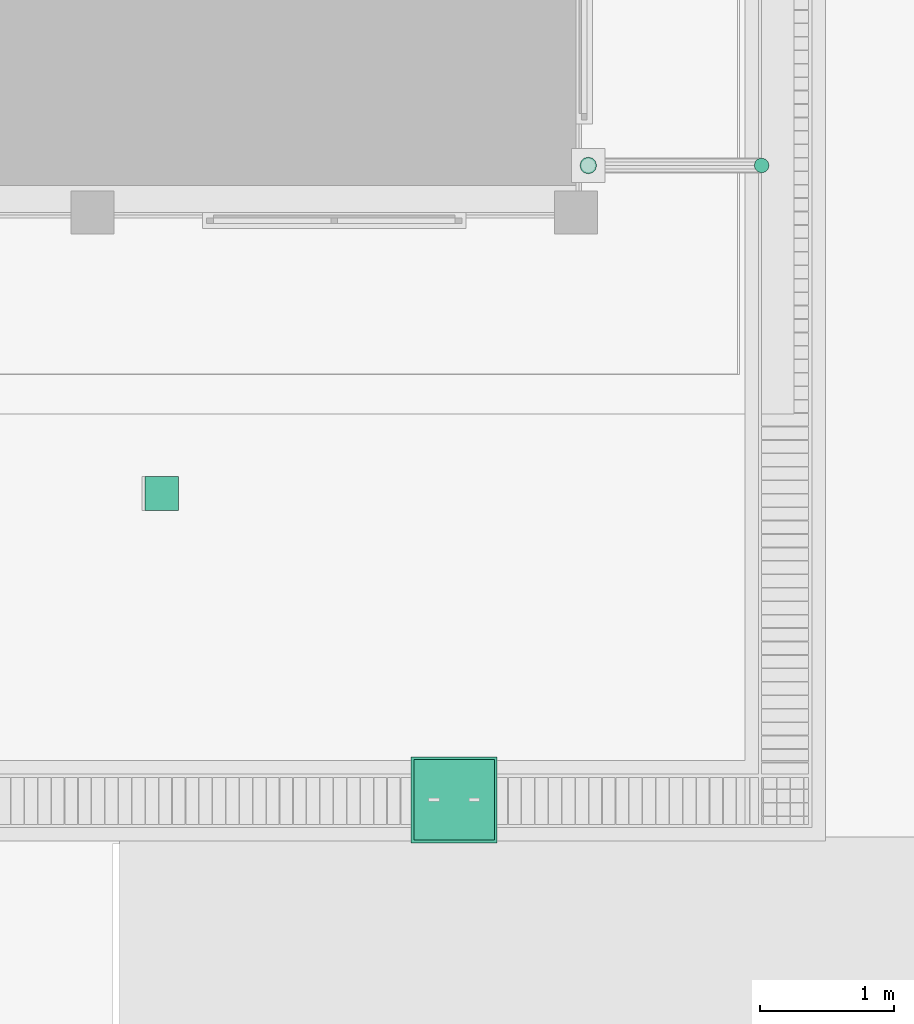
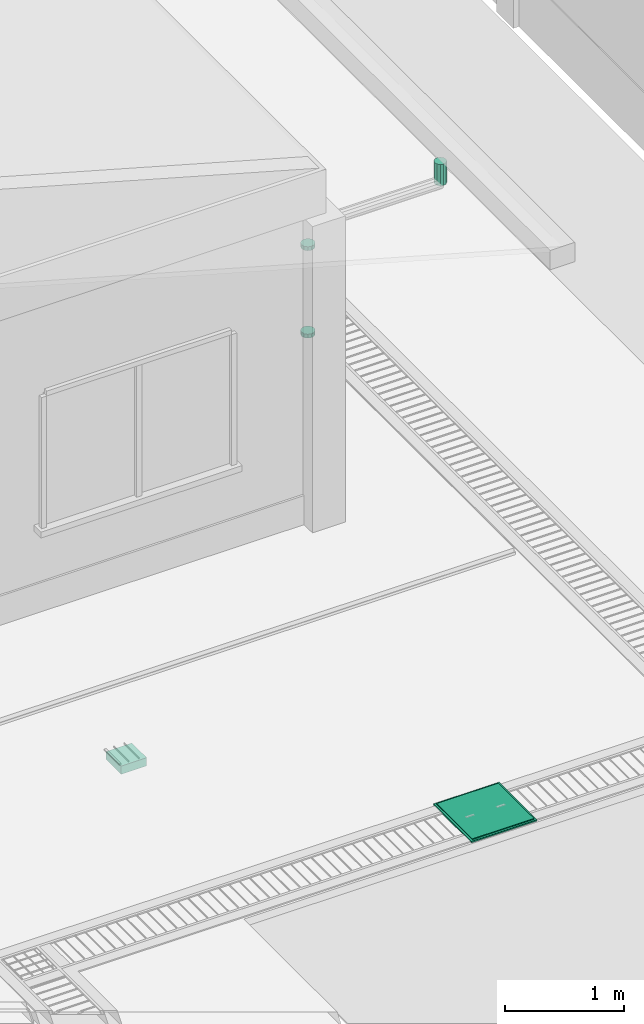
# One storey, part 121 of 151: 3 flow segments, 2 distribution chamber elements, 1 flow terminal.
"""IFC2X3 building model written with IfcOpenShell, lengths in metres."""

from ifc_helpers import new_model, si_unit, origin, origin_with_axes, place, context, subcontext, project, spatial, faceted_brep, element, save


model = new_model("IFC2X3")

# Units and contexts
model_context = context("Model", 3, precision=1e-05, world=origin_with_axes())
body_context = subcontext(model_context, "Body", "Model", "MODEL_VIEW")
ifc_project = project(units=[si_unit("LENGTHUNIT", "METRE"), si_unit("AREAUNIT", "SQUARE_METRE"), si_unit("VOLUMEUNIT", "CUBIC_METRE"), si_unit("PLANEANGLEUNIT", "RADIAN")], contexts=[model_context])

# Site, building, storey
site_placement = place(None, origin_with_axes())
site = spatial("IfcSite", under=ifc_project, at=site_placement, Name="Predio Los Mangos - Morales, San Martín", CompositionType="ELEMENT")
building_placement = place(site_placement, origin())
building = spatial("IfcBuilding", under=site, at=building_placement, Name="Hogar de Refugio Temporal", CompositionType="ELEMENT")
storey_placement = place(building_placement, origin())
storey = spatial("IfcBuildingStorey", under=building, at=storey_placement, Name="NIVEL 1 (NPT +0.00)", CompositionType="ELEMENT", Elevation=0.0)

# Flow segments
flow_segment_1_placement = place(storey_placement, origin())
element("IfcFlowSegment", 1, at=flow_segment_1_placement, inside=storey, Name="montante_boquilla", ObjectType="Montante PVC 4\"", context=body_context, shape_type="Brep", body=[
    faceted_brep([(67.88, 93.105, 3.13), (67.88, 93.105, 2.91), (67.8525, 93.0976, 2.91), (67.8525, 93.0976, 3.13), (67.8324, 93.0775, 2.91), (67.8324, 93.0775, 3.13), (67.825, 93.05, 2.91), (67.825, 93.05, 3.13), (67.8324, 93.0225, 2.91), (67.8324, 93.0225, 3.13), (67.8525, 93.0024, 2.91), (67.8525, 93.0024, 3.13), (67.88, 92.995, 2.91), (67.88, 92.995, 3.13), (67.9075, 93.0024, 2.91), (67.9075, 93.0024, 3.13), (67.9276, 93.0225, 2.91), (67.9276, 93.0225, 3.13), (67.935, 93.05, 2.91), (67.935, 93.05, 3.13), (67.9276, 93.0775, 2.91), (67.9276, 93.0775, 3.13), (67.9075, 93.0976, 2.91), (67.9075, 93.0976, 3.13)], [[[0, 1, 2, 3]], [[3, 2, 4, 5]], [[5, 4, 6, 7]], [[7, 6, 8, 9]], [[9, 8, 10, 11]], [[11, 10, 12, 13]], [[13, 12, 14, 15]], [[15, 14, 16, 17]], [[17, 16, 18, 19]], [[19, 18, 20, 21]], [[2, 1, 22, 20, 18, 16, 14, 12, 10, 8, 6, 4]], [[21, 20, 22, 23]], [[23, 22, 1, 0]], [[0, 3, 5, 7, 9, 11, 13, 15, 17, 19, 21, 23]]]),
])
flow_segment_2_placement = place(storey_placement, origin())
element("IfcFlowSegment", 2, at=flow_segment_2_placement, inside=storey, Name="montante_abrazadera", ObjectType="Montante PVC 4\"", context=body_context, shape_type="Brep", body=[
    faceted_brep([(66.59, 92.988, 1.8), (66.59, 92.988, 1.84), (66.559, 92.9963, 1.84), (66.559, 92.9963, 1.8), (66.5363, 93.019, 1.84), (66.5363, 93.019, 1.8), (66.528, 93.05, 1.84), (66.528, 93.05, 1.8), (66.5363, 93.081, 1.84), (66.5363, 93.081, 1.8), (66.559, 93.1037, 1.84), (66.559, 93.1037, 1.8), (66.59, 93.112, 1.84), (66.59, 93.112, 1.8), (66.621, 93.1037, 1.84), (66.621, 93.1037, 1.8), (66.6437, 93.081, 1.84), (66.6437, 93.081, 1.8), (66.652, 93.05, 1.84), (66.652, 93.05, 1.8), (66.6437, 93.019, 1.84), (66.6437, 93.019, 1.8), (66.621, 92.9963, 1.84), (66.621, 92.9963, 1.8)], [[[0, 1, 2, 3]], [[3, 2, 4, 5]], [[5, 4, 6, 7]], [[7, 6, 8, 9]], [[9, 8, 10, 11]], [[11, 10, 12, 13]], [[13, 12, 14, 15]], [[15, 14, 16, 17]], [[17, 16, 18, 19]], [[19, 18, 20, 21]], [[2, 1, 22, 20, 18, 16, 14, 12, 10, 8, 6, 4]], [[21, 20, 22, 23]], [[23, 22, 1, 0]], [[0, 3, 5, 7, 9, 11, 13, 15, 17, 19, 21, 23]]]),
])
flow_segment_3_placement = place(storey_placement, origin())
element("IfcFlowSegment", 3, at=flow_segment_3_placement, inside=storey, Name="montante_abrazadera", ObjectType="Montante PVC 4\"", context=body_context, shape_type="Brep", body=[
    faceted_brep([(66.59, 92.988, 2.7), (66.59, 92.988, 2.74), (66.559, 92.9963, 2.74), (66.559, 92.9963, 2.7), (66.5363, 93.019, 2.74), (66.5363, 93.019, 2.7), (66.528, 93.05, 2.74), (66.528, 93.05, 2.7), (66.5363, 93.081, 2.74), (66.5363, 93.081, 2.7), (66.559, 93.1037, 2.74), (66.559, 93.1037, 2.7), (66.59, 93.112, 2.74), (66.59, 93.112, 2.7), (66.621, 93.1037, 2.74), (66.621, 93.1037, 2.7), (66.6437, 93.081, 2.74), (66.6437, 93.081, 2.7), (66.652, 93.05, 2.74), (66.652, 93.05, 2.7), (66.6437, 93.019, 2.74), (66.6437, 93.019, 2.7), (66.621, 92.9963, 2.74), (66.621, 92.9963, 2.7)], [[[0, 1, 2, 3]], [[3, 2, 4, 5]], [[5, 4, 6, 7]], [[7, 6, 8, 9]], [[9, 8, 10, 11]], [[11, 10, 12, 13]], [[13, 12, 14, 15]], [[15, 14, 16, 17]], [[17, 16, 18, 19]], [[19, 18, 20, 21]], [[2, 1, 22, 20, 18, 16, 14, 12, 10, 8, 6, 4]], [[21, 20, 22, 23]], [[23, 22, 1, 0]], [[0, 3, 5, 7, 9, 11, 13, 15, 17, 19, 21, 23]]]),
])

# Flow terminal
flow_terminal_placement = place(storey_placement, origin())
element("IfcFlowTerminal", 4, at=flow_terminal_placement, inside=storey, Name="sumidero_fondo", ObjectType="Sumidero con rejilla", context=body_context, shape_type="Brep", body=[
    faceted_brep([(63.29, 90.484, -0.02), (63.29, 90.734, -0.02), (63.54, 90.734, -0.02), (63.54, 90.484, -0.02), (63.29, 90.484, 0.064), (63.54, 90.484, 0.064), (63.54, 90.734, 0.064), (63.29, 90.734, 0.064)], [[[0, 1, 2, 3]], [[4, 5, 6, 7]], [[0, 3, 5, 4]], [[3, 2, 6, 5]], [[2, 1, 7, 6]], [[1, 0, 4, 7]]]),
])

# Distribution chamber elements
distribution_chamber_element_1_placement = place(storey_placement, origin())
element("IfcDistributionChamberElement", 5, at=distribution_chamber_element_1_placement, inside=storey, Name="tapa_insp_junta", ObjectType="Tapa de inspección", context=body_context, shape_type="Brep", body=[
    faceted_brep([(65.272, 88.009, 0.082), (65.272, 88.649, 0.082), (65.912, 88.649, 0.082), (65.912, 88.009, 0.082), (65.272, 88.009, 0.096), (65.912, 88.009, 0.096), (65.912, 88.649, 0.096), (65.272, 88.649, 0.096)], [[[0, 1, 2, 3]], [[4, 5, 6, 7]], [[0, 3, 5, 4]], [[3, 2, 6, 5]], [[2, 1, 7, 6]], [[1, 0, 4, 7]]]),
])
distribution_chamber_element_2_placement = place(storey_placement, origin())
element("IfcDistributionChamberElement", 6, at=distribution_chamber_element_2_placement, inside=storey, Name="tapa_inspeccion", ObjectType="Tapa de inspección", context=body_context, shape_type="Brep", body=[
    faceted_brep([(65.292, 88.029, 0.082), (65.292, 88.629, 0.082), (65.892, 88.629, 0.082), (65.892, 88.029, 0.082), (65.292, 88.029, 0.104), (65.892, 88.029, 0.104), (65.892, 88.629, 0.104), (65.292, 88.629, 0.104)], [[[0, 1, 2, 3]], [[4, 5, 6, 7]], [[0, 3, 5, 4]], [[3, 2, 6, 5]], [[2, 1, 7, 6]], [[1, 0, 4, 7]]]),
])

save(model, "model.ifc")
